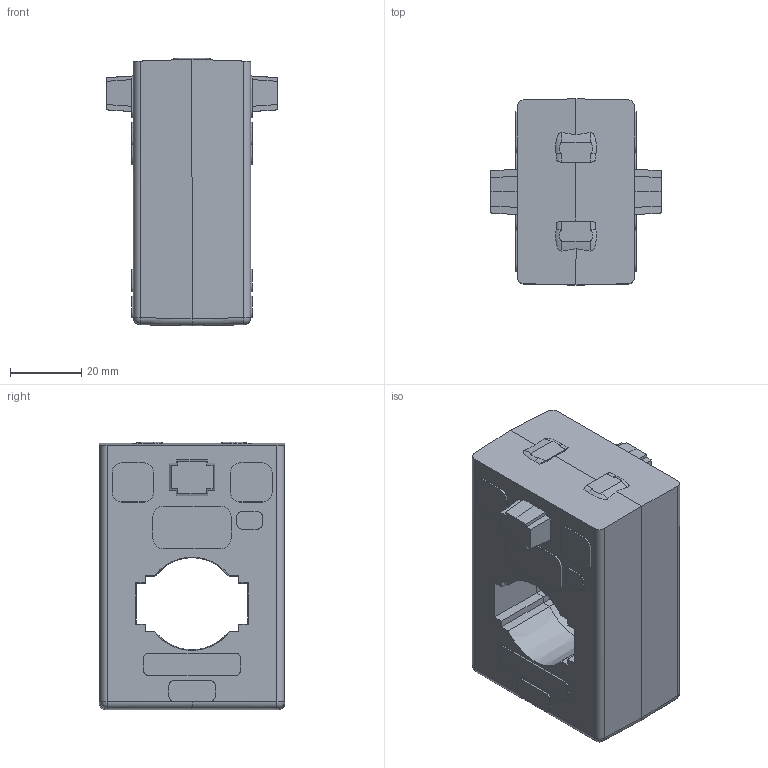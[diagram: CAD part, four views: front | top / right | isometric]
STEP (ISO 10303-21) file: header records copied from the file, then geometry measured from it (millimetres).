
FILE_DESCRIPTION(/* description */ (''),/* implementation_level */ '2;1');
FILE_NAME(/* name */ 'ENT.A30 UM.stp',/* time_stamp */ '2026-06-23T09:49:21+03:00',/* author */ (''),/* organization */ (''),/* preprocessor_version */ 'ST-DEVELOPER v20.1',/* originating_system */ 'SIEMENS PLM Software NX2512.6002',/* authorisation */ '');
FILE_SCHEMA (('AP203_CONFIGURATION_CONTROLLED_3D_DESIGN_OF_MECHANICAL_PARTS_AND_ASSEMBLIES_MIM_LF { 1 0 10303 403 2 1 2}'));
Length unit declared in the file: millimetre
Products named in the file (1): pazarlama_step_data_objects
Bounding box: 48 x 52.33 x 75.3 mm (x, y, z)
Volume: 109473.6 mm3; surface area: 18608.4 mm2
Topology: 1 solids, 1 shells, 218 faces, 589 edges, 383 vertices
Faces by surface type: plane 134, cylinder 54, cone 20, sphere 4, torus 4, bspline 2
Entity records: 7258 total; most frequent: CARTESIAN_POINT 1705, ORIENTED_EDGE 1170, DIRECTION 1095, EDGE_CURVE 585, LINE 393, VECTOR 393, VERTEX_POINT 383, AXIS2_PLACEMENT_3D 351
